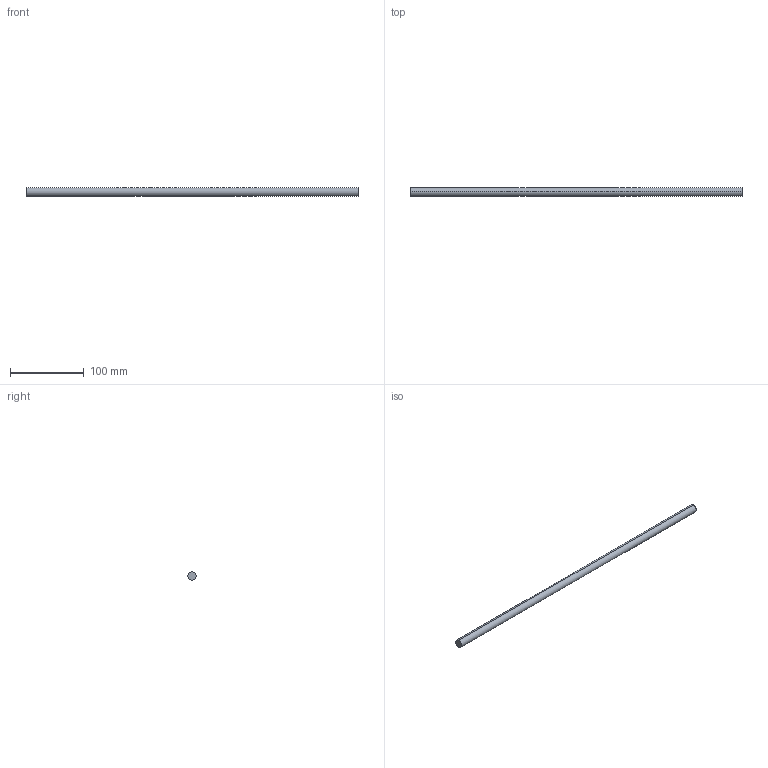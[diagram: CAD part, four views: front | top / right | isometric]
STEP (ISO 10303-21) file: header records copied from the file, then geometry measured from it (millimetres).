
FILE_DESCRIPTION (( 'STEP AP214' ), '1' );
FILE_NAME ('Querreling_2S-Rel_7102_KAB-550.step', '2010-09-22T15:05:53', ( 'grass' ), ( '' ), 'SwSTEP 2.0', 'SolidWorks 2010', '' );
FILE_SCHEMA (( 'AUTOMOTIVE_DESIGN' ));
Length unit declared in the file: millimetre
Products named in the file (1): Querreling_2S-Rel_7102_KAB-550
Bounding box: 449 x 11 x 11 mm (x, y, z)
Volume: 42669.9 mm3; surface area: 15706.4 mm2
Topology: 1 solids, 1 shells, 4 faces, 6 edges, 4 vertices
Faces by surface type: cylinder 2, plane 2
Entity records: 128 total; most frequent: DIRECTION 20, CARTESIAN_POINT 15, ORIENTED_EDGE 12, AXIS2_PLACEMENT_3D 9, EDGE_CURVE 6, VERTEX_POINT 4, EDGE_LOOP 4, CIRCLE 4
